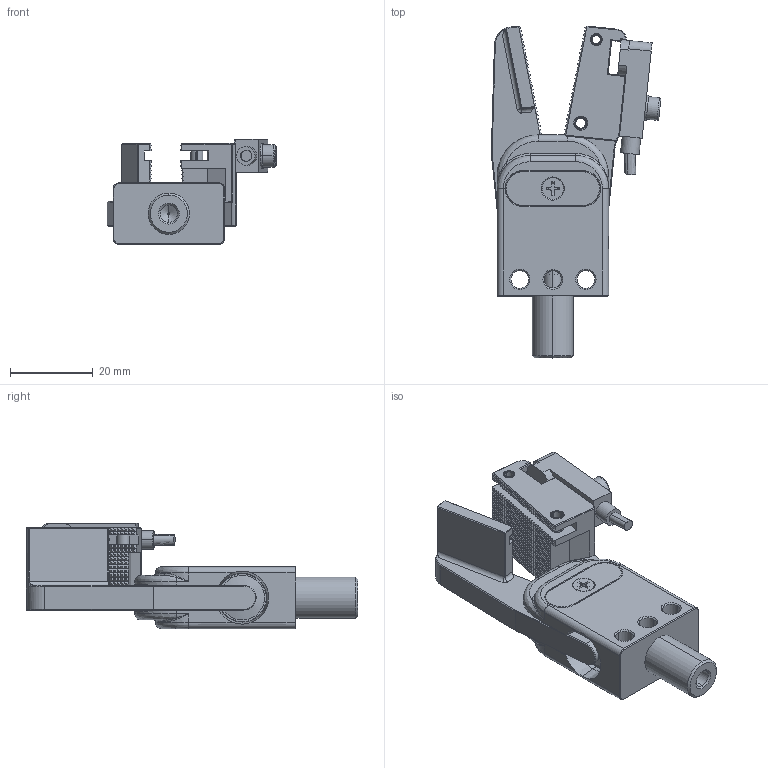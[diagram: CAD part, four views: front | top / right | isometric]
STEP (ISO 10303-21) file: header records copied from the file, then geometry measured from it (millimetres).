
FILE_DESCRIPTION (( 'STEP AP203' ), '1' );
FILE_NAME ('GR10L-12-(CP CN)装配.STEP', '2023-12-26T00:56:21', ( '微软用户' ), ( '微软中国' ), 'SwSTEP 2.0', 'SolidWorks 2018', '' );
FILE_SCHEMA (( 'CONFIG_CONTROL_DESIGN' ));
Products named in the file (1): GR10L-12-(CP CN)蚾饜
Bounding box: 41.03 x 80.34 x 25.5 mm (x, y, z)
Volume: 19657.5 mm3; surface area: 13035.4 mm2
Topology: 1 solids, 17 shells, 3665 faces, 10736 edges, 7090 vertices
Faces by surface type: plane 3303, cylinder 173, cone 125, bspline 64
Entity records: 126099 total; most frequent: CARTESIAN_POINT 29143, ORIENTED_EDGE 21460, DIRECTION 18139, EDGE_CURVE 10730, LINE 9959, VECTOR 9959, VERTEX_POINT 7090, AXIS2_PLACEMENT_3D 4090
